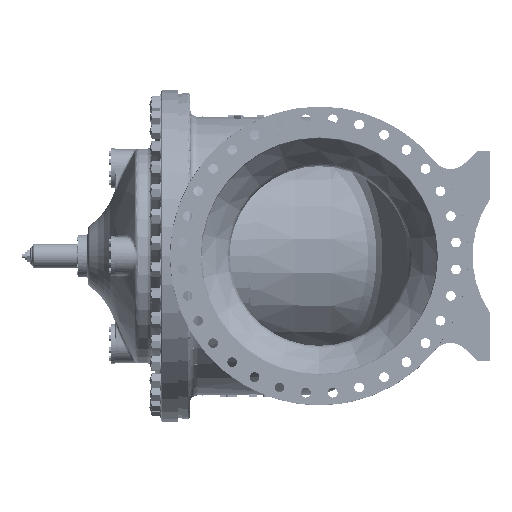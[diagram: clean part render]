
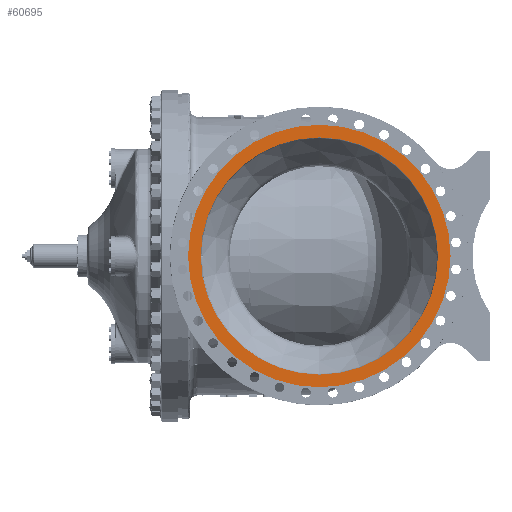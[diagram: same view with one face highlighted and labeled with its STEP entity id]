
A CAD part, left-side view. The second image highlights one B-rep face of the part: STEP entity #60695.
In plain terms, the highlighted planar face has unit normal (-1, 0, 0) as drawn and (1, 0, 0) by its records, which use the part's own axes.
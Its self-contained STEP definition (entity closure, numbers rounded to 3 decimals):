
#2915=FACE_BOUND('',#12626,.T.);
#6711=PLANE('',#65998);
#8869=FACE_OUTER_BOUND('',#12625,.T.);
#12625=EDGE_LOOP('',(#43816,#43817));
#12626=EDGE_LOOP('',(#43818,#43819));
#22335=CIRCLE('',#65999,664.);
#22336=CIRCLE('',#66000,664.);
#22337=CIRCLE('',#66001,600.075);
#22338=CIRCLE('',#66002,600.075);
#26792=VERTEX_POINT('',#113674);
#26793=VERTEX_POINT('',#113675);
#26794=VERTEX_POINT('',#113678);
#26795=VERTEX_POINT('',#113679);
#33247=EDGE_CURVE('',#26792,#26793,#22335,.T.);
#33248=EDGE_CURVE('',#26793,#26792,#22336,.T.);
#33249=EDGE_CURVE('',#26794,#26795,#22337,.T.);
#33250=EDGE_CURVE('',#26795,#26794,#22338,.T.);
#43816=ORIENTED_EDGE('',*,*,#33247,.F.);
#43817=ORIENTED_EDGE('',*,*,#33248,.F.);
#43818=ORIENTED_EDGE('',*,*,#33249,.T.);
#43819=ORIENTED_EDGE('',*,*,#33250,.T.);
#60695=ADVANCED_FACE('',(#8869,#2915),#6711,.F.);
#65998=AXIS2_PLACEMENT_3D('',#113673,#75202,#75203);
#65999=AXIS2_PLACEMENT_3D('',#113676,#75204,#75205);
#66000=AXIS2_PLACEMENT_3D('',#113677,#75206,#75207);
#66001=AXIS2_PLACEMENT_3D('',#113680,#75208,#75209);
#66002=AXIS2_PLACEMENT_3D('',#113681,#75210,#75211);
#75202=DIRECTION('center_axis',(-1.,0.,0.));
#75203=DIRECTION('ref_axis',(0.,0.,1.));
#75204=DIRECTION('center_axis',(-1.,0.,0.));
#75205=DIRECTION('ref_axis',(0.,0.,1.));
#75206=DIRECTION('center_axis',(-1.,0.,0.));
#75207=DIRECTION('ref_axis',(0.,0.,1.));
#75208=DIRECTION('center_axis',(-1.,0.,0.));
#75209=DIRECTION('ref_axis',(0.,0.,1.));
#75210=DIRECTION('center_axis',(-1.,0.,0.));
#75211=DIRECTION('ref_axis',(0.,0.,1.));
#113673=CARTESIAN_POINT('Origin',(1117.6,755.65,0.));
#113674=CARTESIAN_POINT('',(1117.6,0.,664.));
#113675=CARTESIAN_POINT('',(1117.6,0.,-664.));
#113676=CARTESIAN_POINT('Origin',(1117.6,0.,0.));
#113677=CARTESIAN_POINT('Origin',(1117.6,0.,0.));
#113678=CARTESIAN_POINT('',(1117.6,0.,600.075));
#113679=CARTESIAN_POINT('',(1117.6,0.,-600.075));
#113680=CARTESIAN_POINT('Origin',(1117.6,0.,0.));
#113681=CARTESIAN_POINT('Origin',(1117.6,0.,0.));
